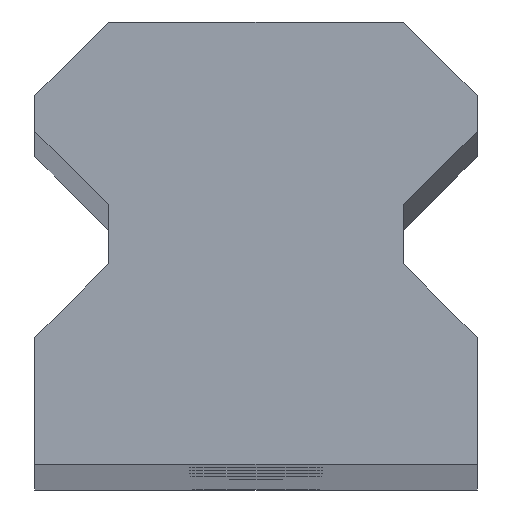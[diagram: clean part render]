
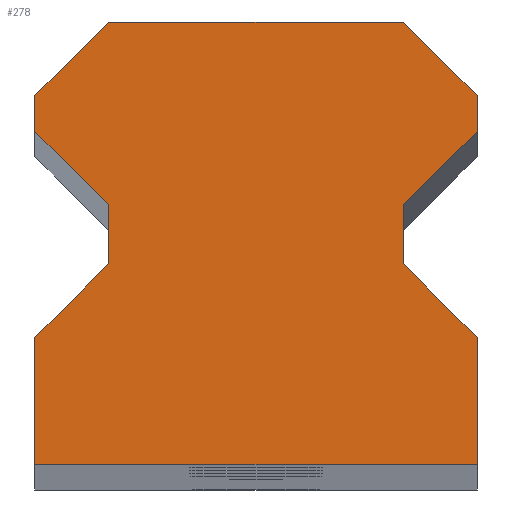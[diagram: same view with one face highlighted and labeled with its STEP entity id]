
A CAD part, top view. The second image highlights one B-rep face of the part: STEP entity #278.
In plain terms, the highlighted planar face has unit normal (0, 0, 1).
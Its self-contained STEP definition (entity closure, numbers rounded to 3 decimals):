
#278=ADVANCED_FACE('',(#662),#664,.T.);
#662=FACE_BOUND('',#663,.T.);
#663=EDGE_LOOP('',(#857,#858,#859,#860,#861,#862,#863,#864,#865,#866,#867,#868,#869,
#870));
#664=PLANE('',#665);
#665=AXIS2_PLACEMENT_3D('',#666,#667,#668);
#666=CARTESIAN_POINT('',(0.,0.,500.));
#667=DIRECTION('',(0.,0.,1.));
#668=DIRECTION('',(1.,0.,0.));
#857=ORIENTED_EDGE('',*,*,#937,.T.);
#858=ORIENTED_EDGE('',*,*,#972,.T.);
#859=ORIENTED_EDGE('',*,*,#973,.T.);
#860=ORIENTED_EDGE('',*,*,#974,.T.);
#861=ORIENTED_EDGE('',*,*,#975,.T.);
#862=ORIENTED_EDGE('',*,*,#976,.T.);
#863=ORIENTED_EDGE('',*,*,#977,.T.);
#864=ORIENTED_EDGE('',*,*,#956,.T.);
#865=ORIENTED_EDGE('',*,*,#978,.T.);
#866=ORIENTED_EDGE('',*,*,#979,.T.);
#867=ORIENTED_EDGE('',*,*,#980,.T.);
#868=ORIENTED_EDGE('',*,*,#981,.T.);
#869=ORIENTED_EDGE('',*,*,#982,.T.);
#870=ORIENTED_EDGE('',*,*,#983,.T.);
#937=EDGE_CURVE('',#1028,#1026,#1029,.T.);
#956=EDGE_CURVE('',#1066,#1064,#1067,.T.);
#972=EDGE_CURVE('',#1026,#1093,#1095,.T.);
#973=EDGE_CURVE('',#1093,#1096,#1097,.T.);
#974=EDGE_CURVE('',#1096,#1098,#1099,.T.);
#975=EDGE_CURVE('',#1098,#1100,#1101,.T.);
#976=EDGE_CURVE('',#1100,#1102,#1103,.T.);
#977=EDGE_CURVE('',#1102,#1066,#1104,.T.);
#978=EDGE_CURVE('',#1064,#1105,#1106,.T.);
#979=EDGE_CURVE('',#1105,#1107,#1108,.T.);
#980=EDGE_CURVE('',#1107,#1109,#1110,.T.);
#981=EDGE_CURVE('',#1109,#1111,#1112,.T.);
#982=EDGE_CURVE('',#1111,#1113,#1114,.T.);
#983=EDGE_CURVE('',#1113,#1028,#1115,.T.);
#1026=VERTEX_POINT('',#1204);
#1028=VERTEX_POINT('',#1208);
#1029=LINE('',#1209,#1210);
#1064=VERTEX_POINT('',#1295);
#1066=VERTEX_POINT('',#1299);
#1067=LINE('',#1300,#1301);
#1093=VERTEX_POINT('',#1357);
#1095=LINE('',#1361,#1362);
#1096=VERTEX_POINT('',#1364);
#1097=LINE('',#1365,#1366);
#1098=VERTEX_POINT('',#1368);
#1099=LINE('',#1369,#1370);
#1100=VERTEX_POINT('',#1372);
#1101=LINE('',#1373,#1374);
#1102=VERTEX_POINT('',#1376);
#1103=LINE('',#1377,#1378);
#1104=LINE('',#1380,#1381);
#1105=VERTEX_POINT('',#1383);
#1106=LINE('',#1384,#1385);
#1107=VERTEX_POINT('',#1387);
#1108=LINE('',#1388,#1389);
#1109=VERTEX_POINT('',#1391);
#1110=LINE('',#1392,#1393);
#1111=VERTEX_POINT('',#1395);
#1112=LINE('',#1396,#1397);
#1113=VERTEX_POINT('',#1399);
#1114=LINE('',#1400,#1401);
#1115=LINE('',#1403,#1404);
#1204=CARTESIAN_POINT('',(-5.,15.,500.));
#1208=CARTESIAN_POINT('',(5.,15.,500.));
#1209=CARTESIAN_POINT('',(5.,15.,500.));
#1210=VECTOR('',#1211,1.);
#1211=DIRECTION('',(-1.,0.,0.));
#1295=CARTESIAN_POINT('',(7.5,0.,500.));
#1299=CARTESIAN_POINT('',(-7.5,0.,500.));
#1300=CARTESIAN_POINT('',(-7.5,0.,500.));
#1301=VECTOR('',#1302,1.);
#1302=DIRECTION('',(1.,0.,0.));
#1357=CARTESIAN_POINT('',(-7.5,12.5,500.));
#1361=CARTESIAN_POINT('',(-5.,15.,500.));
#1362=VECTOR('',#1363,1.);
#1363=DIRECTION('',(-0.707,-0.707,0.));
#1364=CARTESIAN_POINT('',(-7.5,11.3,500.));
#1365=CARTESIAN_POINT('',(-7.5,12.5,500.));
#1366=VECTOR('',#1367,1.);
#1367=DIRECTION('',(0.,-1.,0.));
#1368=CARTESIAN_POINT('',(-5.,8.8,500.));
#1369=CARTESIAN_POINT('',(-7.5,11.3,500.));
#1370=VECTOR('',#1371,1.);
#1371=DIRECTION('',(0.707,-0.707,0.));
#1372=CARTESIAN_POINT('',(-5.,6.8,500.));
#1373=CARTESIAN_POINT('',(-5.,8.8,500.));
#1374=VECTOR('',#1375,1.);
#1375=DIRECTION('',(0.,-1.,0.));
#1376=CARTESIAN_POINT('',(-7.5,4.3,500.));
#1377=CARTESIAN_POINT('',(-5.,6.8,500.));
#1378=VECTOR('',#1379,1.);
#1379=DIRECTION('',(-0.707,-0.707,0.));
#1380=CARTESIAN_POINT('',(-7.5,4.3,500.));
#1381=VECTOR('',#1382,1.);
#1382=DIRECTION('',(0.,-1.,0.));
#1383=CARTESIAN_POINT('',(7.5,4.3,500.));
#1384=CARTESIAN_POINT('',(7.5,0.,500.));
#1385=VECTOR('',#1386,1.);
#1386=DIRECTION('',(0.,1.,0.));
#1387=CARTESIAN_POINT('',(5.,6.8,500.));
#1388=CARTESIAN_POINT('',(7.5,4.3,500.));
#1389=VECTOR('',#1390,1.);
#1390=DIRECTION('',(-0.707,0.707,0.));
#1391=CARTESIAN_POINT('',(5.,8.8,500.));
#1392=CARTESIAN_POINT('',(5.,6.8,500.));
#1393=VECTOR('',#1394,1.);
#1394=DIRECTION('',(0.,1.,0.));
#1395=CARTESIAN_POINT('',(7.5,11.3,500.));
#1396=CARTESIAN_POINT('',(5.,8.8,500.));
#1397=VECTOR('',#1398,1.);
#1398=DIRECTION('',(0.707,0.707,0.));
#1399=CARTESIAN_POINT('',(7.5,12.5,500.));
#1400=CARTESIAN_POINT('',(7.5,11.3,500.));
#1401=VECTOR('',#1402,1.);
#1402=DIRECTION('',(0.,1.,0.));
#1403=CARTESIAN_POINT('',(7.5,12.5,500.));
#1404=VECTOR('',#1405,1.);
#1405=DIRECTION('',(-0.707,0.707,0.));
